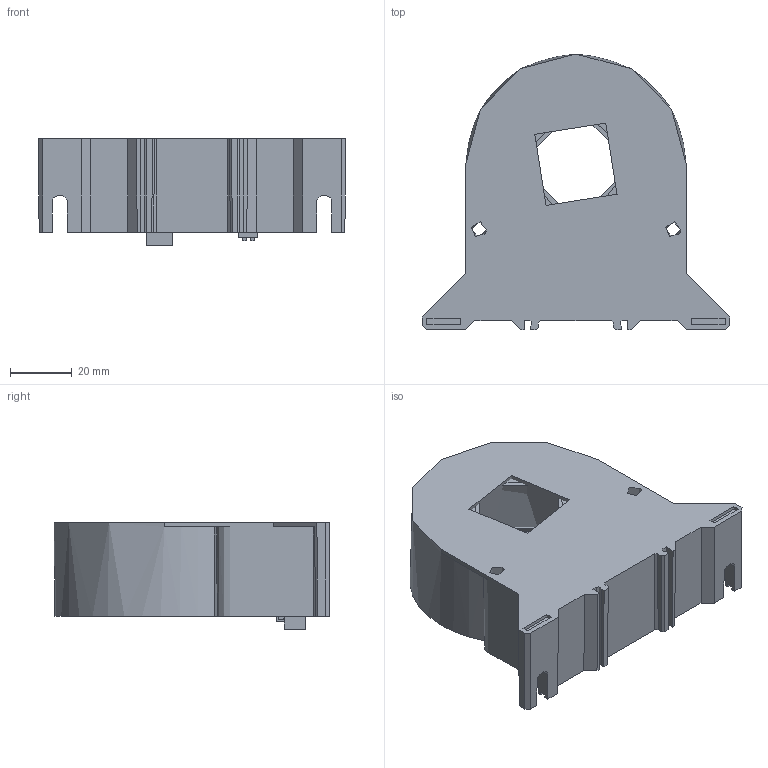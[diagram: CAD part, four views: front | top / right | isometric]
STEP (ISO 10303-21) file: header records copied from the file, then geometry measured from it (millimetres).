
FILE_DESCRIPTION(/* description */ (''),/* implementation_level */ '2;1');
FILE_NAME(/* name */ 'C:\Users\funes\Desktop\PROGETTI\QI-300-I\MEC\DM0000140.stp',/* time_stamp */ '2015-07-27T10:34:18+02:00',/* author */ ('funes'),/* organization */ (''),/* preprocessor_version */ 'ST-DEVELOPER v16.1',/* originating_system */ 'Autodesk Inventor LT ',/* authorisation */ '');
FILE_SCHEMA (('AUTOMOTIVE_DESIGN { 1 0 10303 214 3 1 1 }'));
Length unit declared in the file: millimetre
Products named in the file (1): DM000030
Bounding box: 99.78 x 89.58 x 34.73 mm (x, y, z)
Volume: 133083 mm3; surface area: 69210.4 mm2
Topology: 23 solids, 23 shells, 1366 faces, 3643 edges, 2401 vertices
Faces by surface type: plane 1073, cylinder 242, bspline 19, cone 19, torus 13
Full cylindrical faces by diameter (mm): 0.41 x9, 0.457 x1, 0.6 x6, 0.7 x8, 0.805 x3, 0.9 x16, 1 x29, 1.2 x5, 1.25 x2, 1.6 x2, 2.032 x1, 3.048 x1, 5 x2, 33 x1, 36.5 x2
Entity records: 43419 total; most frequent: CARTESIAN_POINT 8907, ORIENTED_EDGE 7002, DIRECTION 6729, EDGE_CURVE 3498, LINE 2875, VECTOR 2875, VERTEX_POINT 2358, AXIS2_PLACEMENT_3D 1927
